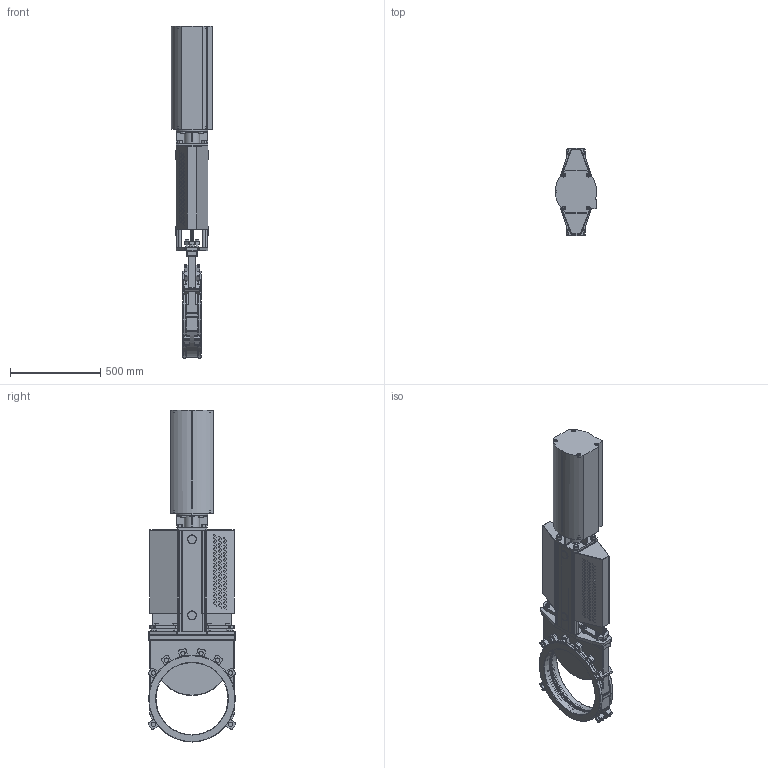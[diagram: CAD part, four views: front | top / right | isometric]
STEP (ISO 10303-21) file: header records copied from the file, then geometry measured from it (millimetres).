
FILE_DESCRIPTION(('STEP AP203'),'1');
FILE_NAME('G:/KONSTRUK/3-d block för CD/XV VALVE/EC/XV-DN400-EC200.stp','2013-01-24T10:16:16',(' '),(' '),'Spatial InterOp 3D',' ',' ');
FILE_SCHEMA(('CONFIG_CONTROL_DESIGN'));
Length unit declared in the file: millimetre
Products named in the file (3): 1; 2; 3
Bounding box: 228.6 x 488 x 1843.3 mm (x, y, z)
Volume: 43978698 mm3; surface area: 3850672.4 mm2
Topology: 3 solids, 35 shells, 2482 faces, 6630 edges, 4285 vertices
Faces by surface type: cylinder 1210, plane 914, cone 278, torus 64, sphere 8, bspline 8
Entity records: 81243 total; most frequent: CARTESIAN_POINT 17428, DIRECTION 14011, ORIENTED_EDGE 13180, EDGE_CURVE 6590, AXIS2_PLACEMENT_3D 5442, VERTEX_POINT 4285, LINE 3127, VECTOR 3127
